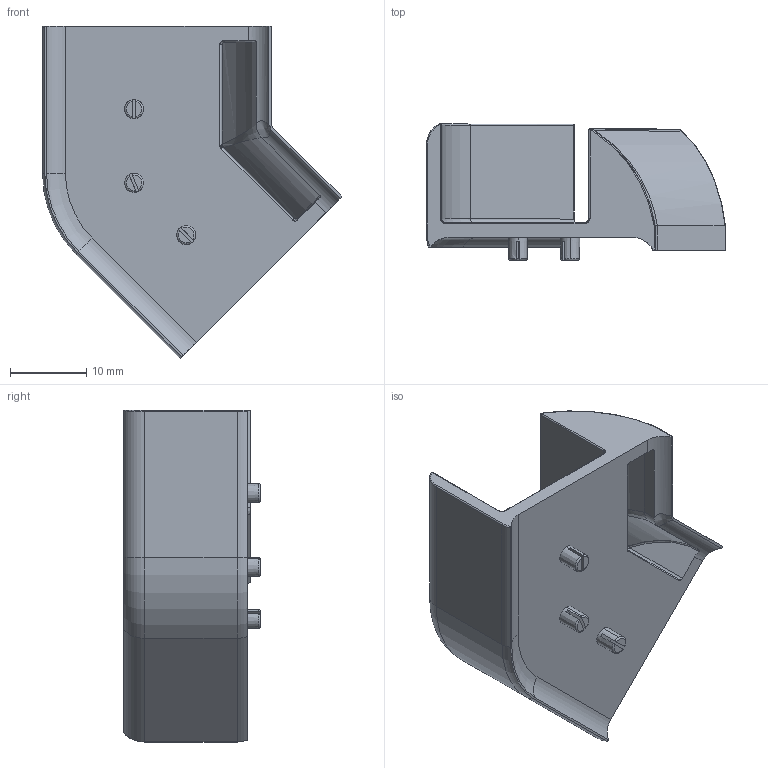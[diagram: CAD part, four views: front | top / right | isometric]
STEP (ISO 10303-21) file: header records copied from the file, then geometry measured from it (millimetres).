
FILE_DESCRIPTION (( 'STEP AP203' ), '1' );
FILE_NAME ('013.030.128.STEP', '2020-09-21T07:07:10', ( '' ), ( '' ), 'SwSTEP 2.0', 'SolidWorks 2018', '' );
FILE_SCHEMA (( 'CONFIG_CONTROL_DESIGN' ));
Length unit declared in the file: millimetre
Products named in the file (1): 013.030.128
Bounding box: 39.22 x 17.89 x 43.56 mm (x, y, z)
Volume: 4859.2 mm3; surface area: 5338.6 mm2
Topology: 1 solids, 1 shells, 135 faces, 333 edges, 200 vertices
Faces by surface type: cylinder 45, plane 36, torus 29, bspline 17, cone 6, sphere 2
Entity records: 4684 total; most frequent: CARTESIAN_POINT 1546, ORIENTED_EDGE 658, DIRECTION 638, EDGE_CURVE 329, AXIS2_PLACEMENT_3D 261, VERTEX_POINT 199, CIRCLE 142, EDGE_LOOP 138
